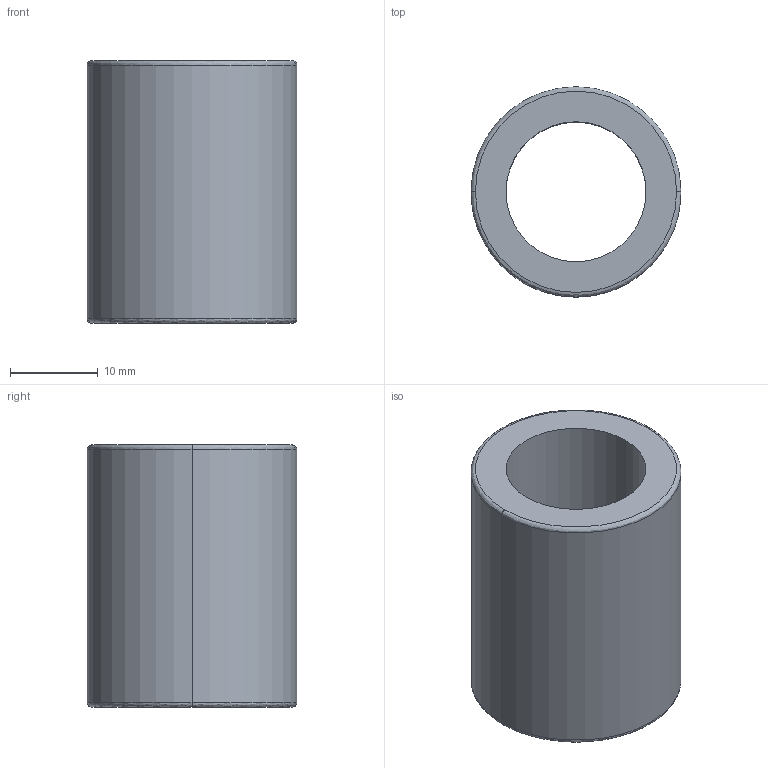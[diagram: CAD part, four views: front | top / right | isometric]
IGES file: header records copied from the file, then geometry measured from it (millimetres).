
Start section: 3D InterOp IGES (Version 21 0 1), Spatial Corp. Copyright (c) 1999-2007.
Global section: file name: CB-16.igs; native system: Spatial Corp.; preprocessor: 3D InterOp GENERIC/IGES 3.0; author: Noname; organization: Noname; date: 20220216.101528; units: millimetre
Bounding box: 24 x 24 x 30 mm (x, y, z)
Surface area: 4240 mm2 (no closed solid volume)
Topology: 0 solids, 0 shells, 10 faces, 40 edges, 40 vertices
Faces by surface type: revolution 8, extrusion 2
